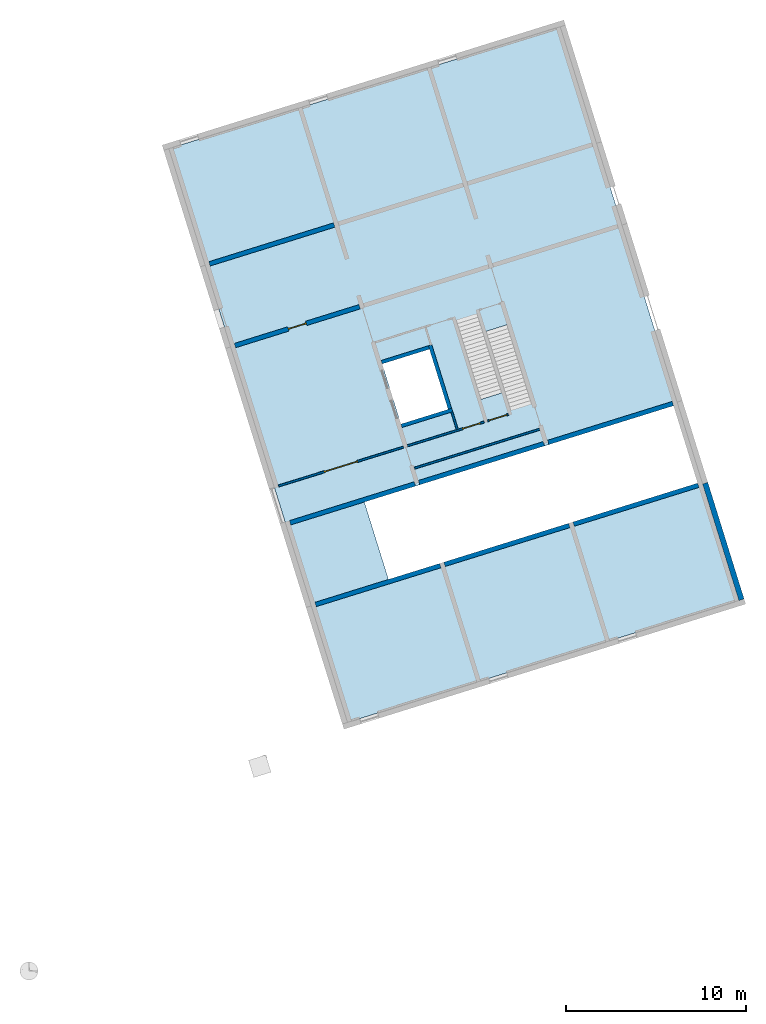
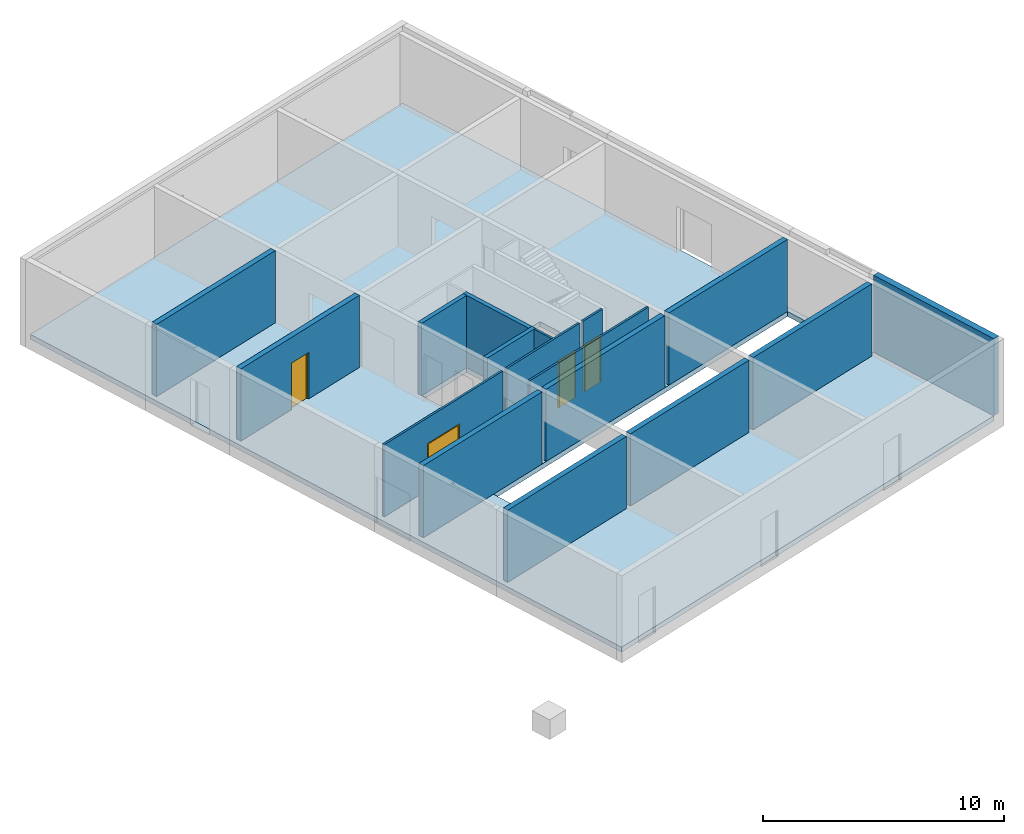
# One storey, part 1 of 6: 17 walls, 4 doors, 1 slab, 9 openings.
"""IFC4 building model written with IfcOpenShell, lengths in metres."""

from ifc_helpers import new_model, entity, si_unit, converted_unit, direction, frame, origin, place, context, subcontext, project, spatial, indexed_curve, outline, extrude, polygons, source, transform, mapped, material, constituent, constituent_set, type_object, type_shapes, element, fill, save


model = new_model("IFC4")

# Units and contexts
model_context = context("Model", 3, precision=1e-05, world=origin(), true_north=direction((6.12323399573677e-17, 1.0)))
body_context = subcontext(model_context, "Body", "Model", "MODEL_VIEW")
ifc_project = project(units=[si_unit("LENGTHUNIT", "METRE"), si_unit("AREAUNIT", "SQUARE_METRE"), si_unit("VOLUMEUNIT", "CUBIC_METRE"), converted_unit("PLANEANGLEUNIT", "DEGREE", entity("IfcPlaneAngleMeasure", 0.0174532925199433), si_unit("PLANEANGLEUNIT", "RADIAN"), dimensions=[0, 0, 0, 0, 0, 0, 0])], contexts=[model_context])

# Site, building, storey
site_placement = place(None, frame((13.1347999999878, 11.9886000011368, 0.0), z_axis=(0.0, 0.0, 1.0), x_axis=(0.954770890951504, 0.297342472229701, 0.0)))
site = spatial("IfcSite", under=ifc_project, at=site_placement, Name="Schiehaven", CompositionType="ELEMENT")
building_placement = place(site_placement, origin())
building = spatial("IfcBuilding", under=site, at=building_placement, Name="VORM huis", CompositionType="ELEMENT")
storey_placement = place(building_placement, origin())
storey = spatial("IfcBuildingStorey", under=building, at=storey_placement, Name="00 begane grond", CompositionType="ELEMENT", Elevation=0.0)

# Slab, openings
ifc_material_1 = material(Name="beton_gewapend_ihw", Category="Miscellaneous")
slab_type = type_object("IfcSlabType", Name="Floor:28_FL_skelet_vloer 250mm", PredefinedType="FLOOR", material=ifc_material_1)
slab_placement = place(storey_placement, origin())
slab = element("IfcSlab", 1, at=slab_placement, inside=storey, type_object=slab_type, material=ifc_material_1, Name="Constructieve vloer", ObjectType="Vloer", PredefinedType="FLOOR", context=body_context, shape_type="SweptSolid", body=[
    extrude(outline(indexed_curve([(-16.675, -11.375), (16.675, -11.375), (16.675, 11.375), (-16.675, 11.375), (-16.675, -11.375)], self_intersect=False), holes=[indexed_curve([(-1.75000000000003, -3.62500000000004), (-1.75000000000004, -0.875000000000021), (1.74999999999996, -0.875000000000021), (1.74999999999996, -3.62500000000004), (-1.75000000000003, -3.62500000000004)], self_intersect=False), indexed_curve([(5.27499999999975, 11.1249999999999), (9.77499999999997, 11.1249999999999), (9.77500000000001, -6.84799999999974), (5.27499999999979, -6.84799999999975), (5.27499999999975, 11.1249999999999)], self_intersect=False), indexed_curve([(-1.76000000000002, 2.22499999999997), (1.75999999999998, 2.22499999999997), (1.75999999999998, 1.02499999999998), (-1.76000000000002, 1.02499999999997), (-1.76000000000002, 2.22499999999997)], self_intersect=False), indexed_curve([(1.75999999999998, 2.42499999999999), (-1.76000000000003, 2.42499999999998), (-1.76000000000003, 3.62499999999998), (1.75999999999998, 3.62499999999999), (1.75999999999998, 2.42499999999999)], self_intersect=False)]), frame((16.2500000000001, 17.05, -0.25), z_axis=(0.0, 0.0, 1.0), x_axis=(0.0, -1.0, 0.0)), (0.0, 0.0, 1.0), 0.25),
])
opening_1_placement = place(slab_placement, origin())
element("IfcOpeningElement", 2, at=opening_1_placement, cuts=slab, Name="Constructieve vloer", PredefinedType="OPENING", context=body_context, shape_type="SweptSolid", body=[
    extrude(outline(indexed_curve([(-1.74999999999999, -1.37500000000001), (1.75, -1.37500000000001), (1.75, 1.37500000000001), (-1.75, 1.37500000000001), (-1.74999999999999, -1.37500000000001)], self_intersect=False)), frame((14.0, 17.05, -0.25), z_axis=(0.0, 0.0, 1.0), x_axis=(0.0, -1.0, 0.0)), (0.0, 0.0, 1.0), 0.25),
])
opening_2_placement = place(slab_placement, origin())
element("IfcOpeningElement", 3, at=opening_2_placement, cuts=slab, Name="Constructieve vloer", PredefinedType="OPENING", context=body_context, shape_type="SweptSolid", body=[
    extrude(outline(indexed_curve([(-8.98649999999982, -2.25000000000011), (8.98649999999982, -2.25000000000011), (8.98649999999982, 2.25000000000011), (-8.98649999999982, 2.25000000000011), (-8.98649999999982, -2.25000000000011)], self_intersect=False)), frame((18.3885000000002, 9.5250000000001, -0.25), z_axis=(0.0, 0.0, 1.0), x_axis=(-1.0, 0.0, 0.0)), (0.0, 0.0, 1.0), 0.25),
])
opening_3_placement = place(slab_placement, origin())
element("IfcOpeningElement", 4, at=opening_3_placement, cuts=slab, Name="Constructieve vloer", PredefinedType="OPENING", context=body_context, shape_type="SweptSolid", body=[
    extrude(outline(indexed_curve([(-0.599999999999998, -1.76), (0.599999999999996, -1.76), (0.599999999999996, 1.76), (-0.599999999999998, 1.76), (-0.599999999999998, -1.76)], self_intersect=False)), frame((17.8750000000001, 17.05, -0.25), z_axis=(0.0, 0.0, 1.0), x_axis=(-1.0, 0.0, 0.0)), (0.0, 0.0, 1.0), 0.25),
])

# Walls
wall_type_1 = type_object("IfcWallType", Name="Basic Wall:28_WA_skelet_wand 250mm_gen", PredefinedType="STANDARD")
wall_1_placement = place(storey_placement, frame((19.875, 11.9, 0.0), z_axis=(0.0, 0.0, 1.0), x_axis=(-1.0, 0.0, 0.0)))
element("IfcWall", 5, at=wall_1_placement, inside=storey, type_object=wall_type_1, material=ifc_material_1, Name="Constructieve wand", ObjectType="Wand", PredefinedType="NOTDEFINED", context=body_context, shape_type="SweptSolid", body=[
    extrude(outline(indexed_curve([(7.24999999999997, 0.125), (-8.26393618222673e-17, 0.125), (8.26393618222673e-17, -0.125), (7.24999999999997, -0.124999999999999), (7.24999999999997, 0.125)], self_intersect=False)), origin(), (0.0, 0.0, 1.0), 3.65),
])
ifc_material_2 = material(Name="ntb_ntb_ntb", Category="Miscellaneous")
wall_type_2 = type_object("IfcWallType", Name="Basic Wall: 300mm_gen", PredefinedType="STANDARD")
wall_2_placement = place(storey_placement, frame((27.7750000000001, 7.15000000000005, 0.0), z_axis=(0.0, 0.0, 1.0), x_axis=(0.0, -1.0, 0.0)))
element("IfcWall", 6, at=wall_2_placement, inside=storey, type_object=wall_type_2, material=ifc_material_2, Name="Gevelwand", ObjectType="Wand", PredefinedType="NOTDEFINED", context=body_context, shape_type="SweptSolid", body=[
    extrude(outline(indexed_curve([(6.77500000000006, 0.15), (-2.81467268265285e-16, 0.150000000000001), (2.81467268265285e-16, -0.150000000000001), (6.77500000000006, -0.150000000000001), (6.77500000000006, 0.15)], self_intersect=False)), origin(), (0.0, 0.0, 1.0), 3.9),
])
ifc_material_3 = material(Name="beton_gewapend_prefab-element", Category="Miscellaneous")
wall_type_3 = type_object("IfcWallType", Name="Basic Wall:28_WA_skelet_wand 200mm_gen", PredefinedType="STANDARD")
wall_3_placement = place(storey_placement, frame((12.6250000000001, 15.2, 0.0)))
element("IfcWall", 7, at=wall_3_placement, inside=storey, type_object=wall_type_3, material=ifc_material_3, Name="Constructieve wand", ObjectType="Wand", PredefinedType="NOTDEFINED", context=body_context, shape_type="SweptSolid", body=[
    extrude(outline(indexed_curve([(2.95, 0.100000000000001), (-3.51397851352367e-16, 0.100000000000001), (3.51397851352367e-16, -0.100000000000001), (2.95, -0.100000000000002), (2.95, 0.100000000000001)], self_intersect=False)), origin(), (0.0, 0.0, 1.0), 3.65),
])
wall_4_placement = place(storey_placement, frame((15.4750000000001, 15.3, 0.0), z_axis=(0.0, 0.0, 1.0), x_axis=(0.0, 1.0, 0.0)))
element("IfcWall", 8, at=wall_4_placement, inside=storey, type_object=wall_type_3, material=ifc_material_3, Name="Constructieve wand", ObjectType="Wand", PredefinedType="NOTDEFINED", context=body_context, shape_type="SweptSolid", body=[
    extrude(outline(indexed_curve([(3.69999999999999, 0.0999999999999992), (-5.34325442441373e-16, 0.0999999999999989), (5.34325442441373e-16, -0.0999999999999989), (3.69999999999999, -0.0999999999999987), (3.69999999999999, 0.0999999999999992)], self_intersect=False)), origin(), (0.0, 0.0, 1.0), 3.65),
])
wall_5_placement = place(storey_placement, frame((15.3750000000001, 18.9, 0.0), z_axis=(0.0, 0.0, 1.0), x_axis=(-1.0, 0.0, 0.0)))
element("IfcWall", 9, at=wall_5_placement, inside=storey, type_object=wall_type_3, material=ifc_material_3, Name="Constructieve wand", ObjectType="Wand", PredefinedType="NOTDEFINED", context=body_context, shape_type="SweptSolid", body=[
    extrude(outline(indexed_curve([(2.75, 0.100000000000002), (-2.05391259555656e-16, 0.100000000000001), (2.05391259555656e-16, -0.100000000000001), (2.75, -0.0999999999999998), (2.75, 0.100000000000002)], self_intersect=False)), origin(), (0.0, 0.0, 1.0), 3.65),
])

# Wall, opening, door
wall_type_4 = type_object("IfcWallType", Name="Basic Wall:22_WA_afbouw_binnenwand 250mm_gen", PredefinedType="STANDARD")
wall_6_placement = place(storey_placement, frame((12.3750000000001, 22.2, 0.0), z_axis=(0.0, 0.0, 1.0), x_axis=(-1.0, 0.0, 0.0)))
wall_6 = element("IfcWall", 10, at=wall_6_placement, inside=storey, type_object=wall_type_4, material=ifc_material_2, Name="Binnenwand", ObjectType="Wand", PredefinedType="NOTDEFINED", context=body_context, shape_type="Tessellation", body=[
    polygons([(2.38977573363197e-16, -0.124999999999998, 0.0), (3.09999999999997, -0.124999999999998, 0.0), (3.09999999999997, -0.124999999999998, 2.34999999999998), (4.14999999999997, -0.124999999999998, 2.34999999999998), (4.14999999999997, -0.124999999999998, 0.0), (7.24999999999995, -0.124999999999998, 0.0), (7.24999999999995, -0.124999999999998, 3.65), (2.38977573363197e-16, -0.124999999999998, 3.65), (3.09999999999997, 0.125000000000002, 2.34999999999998), (3.09999999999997, 0.125000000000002, 0.0), (-8.06549310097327e-16, 0.125000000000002, 0.0), (-8.06549310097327e-16, 0.125000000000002, 3.65), (7.24999999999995, 0.125000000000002, 3.65), (7.24999999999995, 0.125000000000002, 0.0), (4.14999999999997, 0.125000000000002, 0.0), (4.14999999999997, 0.125000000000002, 2.34999999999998)], [[[1, 2, 3, 4, 5, 6, 7, 8]], [[9, 10, 11, 12, 13, 14, 15, 16]], [[11, 10, 2, 1]], [[7, 6, 14, 13]], [[8, 7, 13, 12]], [[1, 8, 12, 11]], [[5, 4, 16, 15]], [[3, 2, 10, 9]], [[4, 3, 9, 16]], [[15, 14, 6, 5]]], closed=True),
])
opening_4_placement = place(wall_6_placement, frame((3.09999999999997, -0.125000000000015, 0.0)))
opening_4 = element("IfcOpeningElement", 11, at=opening_4_placement, cuts=wall_6, Name="Vluchtdeur", PredefinedType="OPENING", context=body_context, shape_type="SweptSolid", body=[
    extrude(outline(indexed_curve([(2.34999999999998, 1.05), (0.0, 1.05), (0.0, -1.78316254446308e-29), (2.34999999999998, -1.78316254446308e-29), (2.34999999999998, 1.05)], self_intersect=False)), frame((0.0, 0.0, 0.0), z_axis=(0.0, 1.0, 0.0), x_axis=(0.0, 0.0, 1.0)), (0.0, 0.0, 1.0), 0.25),
])
ifc_material_4 = material(Name="PD_a_binnenwandopeningen", Category="Miscellaneous")
ifc_constituent_1 = constituent(ifc_material_4, Name="PD_a_binnenwandopeningen", Category="Miscellaneous")
ifc_material_5 = material(Name="metaal_aluminium_ntb", Category="Miscellaneous")
ifc_constituent_2 = constituent(ifc_material_5, Name="metaal_aluminium_ntb", Category="Miscellaneous")
ifc_constituent_set_1 = constituent_set(constituents=[ifc_constituent_1, ifc_constituent_2])
ifc_constituent_3 = constituent(ifc_material_4, Name="PD_a_binnenwandopeningen", Category="Miscellaneous")
ifc_constituent_4 = constituent(ifc_material_5, Name="Panel", Category="Miscellaneous")
ifc_constituent_set_2 = constituent_set(constituents=[ifc_constituent_3, ifc_constituent_4])
door_type_1 = type_object("IfcDoorType", Name="32_DO_binnendeur enkel:binnendeur zelfsluitend 30min", OperationType="NOTDEFINED", PredefinedType="DOOR", material=ifc_constituent_set_2)
shared_shape_1 = source(origin(), body_context, "Body", "SweptSolid", [
    extrude(outline(indexed_curve([(-1.16249999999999, -0.525000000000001), (1.18749999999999, -0.525), (1.18749999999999, 0.525000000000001), (-1.16249999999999, 0.525000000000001), (-1.16249999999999, 0.475), (1.13749999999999, 0.475), (1.13749999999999, -0.475), (-1.16249999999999, -0.475), (-1.16249999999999, -0.525000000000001)], self_intersect=False)), frame((0.525000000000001, 0.0749999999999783, 1.16249999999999), z_axis=(0.0, 1.0, 0.0), x_axis=(0.0, 0.0, 1.0)), (0.0, 0.0, 1.0), 0.1),
    extrude(outline(indexed_curve([(-0.025, -0.475), (0.025, -0.475), (0.025, 0.475), (-0.025, 0.475), (-0.025, -0.475)], self_intersect=False)), frame((0.525000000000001, 0.12499999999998, 0.0), z_axis=(0.0, 0.0, 1.0), x_axis=(0.0, 1.0, 0.0)), (0.0, 0.0, 1.0), 2.29999999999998),
])
type_shapes(door_type_1, [shared_shape_1])
door_1_placement = place(opening_4_placement, origin())
door_1 = element("IfcDoor", 12, at=door_1_placement, inside=storey, type_object=door_type_1, material=ifc_constituent_set_1, Name="Vluchtdeur", ObjectType="Deur", OperationType="NOTDEFINED", OverallHeight=2.34999999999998, OverallWidth=1.05, PredefinedType="DOOR", context=body_context, shape_type="MappedRepresentation", body=[
    mapped(shared_shape_1, transform((0.0, 0.0, 0.0), scale=1.0)),
])
fill(opening_4, door_1)

# Walls
wall_7_placement = place(storey_placement, frame((20.125, 11.9, 0.0)))
element("IfcWall", 13, at=wall_7_placement, inside=storey, type_object=wall_type_4, material=ifc_material_2, Name="Binnenwand", ObjectType="Wand", PredefinedType="NOTDEFINED", context=body_context, shape_type="SweptSolid", body=[
    extrude(outline(indexed_curve([(7.24999999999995, 0.125), (-1.92055213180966e-16, 0.125), (1.92055213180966e-16, -0.125), (7.24999999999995, -0.124999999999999), (7.24999999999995, 0.125)], self_intersect=False)), origin(), (0.0, 0.0, 1.0), 3.65),
])
wall_8_placement = place(storey_placement, frame((12.3750000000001, 11.9, 0.0), z_axis=(0.0, 0.0, 1.0), x_axis=(-1.0, 0.0, 0.0)))
element("IfcWall", 14, at=wall_8_placement, inside=storey, type_object=wall_type_4, material=ifc_material_2, Name="Binnenwand", ObjectType="Wand", PredefinedType="NOTDEFINED", context=body_context, shape_type="SweptSolid", body=[
    extrude(outline(indexed_curve([(7.24999999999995, 0.125), (-1.96773443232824e-16, 0.125), (1.96773443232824e-16, -0.125), (7.24999999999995, -0.124999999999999), (7.24999999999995, 0.125)], self_intersect=False)), origin(), (0.0, 0.0, 1.0), 3.65),
])
for number, where in (
    (15, (20.125, 7.15000000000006, 0.0)),
    (16, (12.625, 7.15000000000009, 0.0)),
    (17, (5.12500000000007, 7.15000000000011, 0.0)),
):
    element("IfcWall", number, at=place(storey_placement, frame(where)), inside=storey, type_object=wall_type_4, material=ifc_material_2, Name="Binnenwand", ObjectType="Wand", PredefinedType="NOTDEFINED", context=body_context, shape_type="SweptSolid", body=[
        extrude(outline(indexed_curve([(7.24999999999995, 0.124999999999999), (-1.92055213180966e-16, 0.125), (1.92055213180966e-16, -0.125), (7.24999999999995, -0.125000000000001), (7.24999999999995, 0.124999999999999)], self_intersect=False)), origin(), (0.0, 0.0, 1.0), 3.65),
    ])
wall_9_placement = place(storey_placement, frame((5.12500000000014, 26.95, 0.0)))
element("IfcWall", 18, at=wall_9_placement, inside=storey, type_object=wall_type_4, material=ifc_material_2, Name="Binnenwand", ObjectType="Wand", PredefinedType="NOTDEFINED", context=body_context, shape_type="SweptSolid", body=[
    extrude(outline(indexed_curve([(7.24999999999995, 0.124999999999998), (4.69673759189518e-16, 0.125000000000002), (-4.69673759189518e-16, -0.125000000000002), (7.24999999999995, -0.125000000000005), (7.24999999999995, 0.124999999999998)], self_intersect=False)), origin(), (0.0, 0.0, 1.0), 3.65),
])

# Wall, openings, door
wall_type_5 = type_object("IfcWallType", Name="Basic Wall:22_WA_afbouw_binnenwand 100mm_gen", PredefinedType="STANDARD")
wall_10_placement = place(storey_placement, frame((18.4750000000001, 14.04, 0.0), z_axis=(0.0, 0.0, 1.0), x_axis=(-1.0, 0.0, 0.0)))
wall_10 = element("IfcWall", 19, at=wall_10_placement, inside=storey, type_object=wall_type_5, material=ifc_material_2, Name="Binnenwand", ObjectType="Wand", PredefinedType="NOTDEFINED", context=body_context, shape_type="Tessellation", body=[
    polygons([(1.25501523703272e-15, -0.0499999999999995, 0.0), (0.0750000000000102, -0.0499999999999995, 0.0), (0.0750000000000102, -0.0499999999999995, 2.34999999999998), (1.12500000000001, -0.0499999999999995, 2.34999999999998), (1.12500000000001, -0.0499999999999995, 0.0), (1.2, -0.0499999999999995, 0.0), (1.2, -0.0499999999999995, 3.65), (1.25501523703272e-15, -0.0499999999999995, 3.65), (0.0750000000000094, 0.0499999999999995, 2.34999999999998), (0.0750000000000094, 0.0499999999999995, 0.0), (4.77572169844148e-16, 0.0499999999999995, 0.0), (4.77572169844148e-16, 0.0499999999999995, 3.65), (1.2, 0.0499999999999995, 3.65), (1.2, 0.0499999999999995, 0.0), (1.12500000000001, 0.0499999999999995, 0.0), (1.12500000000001, 0.0499999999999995, 2.34999999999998)], [[[1, 2, 3, 4, 5, 6, 7, 8]], [[9, 10, 11, 12, 13, 14, 15, 16]], [[11, 10, 2, 1]], [[7, 6, 14, 13]], [[8, 7, 13, 12]], [[1, 8, 12, 11]], [[5, 4, 16, 15]], [[3, 2, 10, 9]], [[4, 3, 9, 16]], [[15, 14, 6, 5]]], closed=True),
])
opening_5_placement = place(wall_10_placement, frame((0.0750000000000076, -0.05, 0.0)))
opening_5 = element("IfcOpeningElement", 20, at=opening_5_placement, cuts=wall_10, Name="Vluchtdeur", PredefinedType="OPENING", context=body_context, shape_type="SweptSolid", body=[
    extrude(outline(indexed_curve([(2.34999999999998, 1.05), (0.0, 1.05), (0.0, 1.35358391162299e-15), (2.34999999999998, 1.35358391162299e-15), (2.34999999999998, 1.05)], self_intersect=False)), frame((0.0, 0.0, 0.0), z_axis=(0.0, 1.0, 0.0), x_axis=(0.0, 0.0, 1.0)), (0.0, 0.0, 1.0), 0.1),
])
opening_6_placement = place(wall_10_placement, frame((18.4750000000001, 14.04, 0.0), z_axis=(0.0, 0.0, 1.0), x_axis=(-1.0, 0.0, 0.0)))
element("IfcOpeningElement", 21, at=opening_6_placement, cuts=wall_10, Name="Vluchtdeur", PredefinedType="OPENING", context=body_context, shape_type="SweptSolid", body=[
    extrude(outline(indexed_curve([(-1.17499999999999, -0.525000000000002), (1.17499999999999, -0.525), (1.17499999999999, 0.525), (-1.17499999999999, 0.525), (-1.17499999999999, -0.525000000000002)], self_intersect=False)), frame((17.8750000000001, 15.614, 1.17499999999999), z_axis=(0.0, -1.0, 0.0), x_axis=(0.0, 0.0, -1.0)), (0.0, 0.0, 1.0), 3.048),
])
ifc_constituent_5 = constituent(ifc_material_4, Name="PD_a_binnenwandopeningen", Category="Miscellaneous")
ifc_constituent_6 = constituent(ifc_material_5, Name="metaal_aluminium_ntb", Category="Miscellaneous")
ifc_constituent_set_3 = constituent_set(constituents=[ifc_constituent_5, ifc_constituent_6])
ifc_constituent_7 = constituent(ifc_material_4, Name="PD_a_binnenwandopeningen", Category="Miscellaneous")
ifc_constituent_8 = constituent(ifc_material_5, Name="Panel", Category="Miscellaneous")
ifc_constituent_set_4 = constituent_set(constituents=[ifc_constituent_7, ifc_constituent_8])
door_type_2 = type_object("IfcDoorType", Name="32_DO_binnendeur enkel:binnendeur zelfsluitend 30min", OperationType="NOTDEFINED", PredefinedType="DOOR", material=ifc_constituent_set_4)
shared_shape_2 = source(origin(), body_context, "Body", "SweptSolid", [
    extrude(outline(indexed_curve([(-1.16249999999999, -0.525000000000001), (1.18749999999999, -0.525), (1.18749999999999, 0.525), (-1.16249999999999, 0.525), (-1.16249999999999, 0.475), (1.13749999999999, 0.475), (1.13749999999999, -0.475), (-1.16249999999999, -0.475), (-1.16249999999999, -0.525000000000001)], self_intersect=False)), frame((0.525000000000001, 0.0, 1.16249999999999), z_axis=(0.0, 1.0, 0.0), x_axis=(0.0, 0.0, 1.0)), (0.0, 0.0, 1.0), 0.1),
    extrude(outline(indexed_curve([(-0.025, -0.475), (0.025, -0.475), (0.025, 0.475), (-0.025, 0.475), (-0.025, -0.475)], self_intersect=False)), frame((0.525000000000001, 0.0499999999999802, 0.0), z_axis=(0.0, 0.0, 1.0), x_axis=(0.0, 1.0, 0.0)), (0.0, 0.0, 1.0), 2.29999999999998),
])
type_shapes(door_type_2, [shared_shape_2])
door_2_placement = place(opening_5_placement, origin())
door_2 = element("IfcDoor", 22, at=door_2_placement, inside=storey, type_object=door_type_2, material=ifc_constituent_set_3, Name="Vluchtdeur", ObjectType="Deur", OperationType="NOTDEFINED", OverallHeight=2.34999999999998, OverallWidth=1.05, PredefinedType="DOOR", context=body_context, shape_type="MappedRepresentation", body=[
    mapped(shared_shape_2, transform((0.0, 0.0, 0.0), scale=1.0)),
])
fill(opening_5, door_2)

# Wall, opening, door
wall_11_placement = place(storey_placement, frame((12.3750000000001, 14.0400000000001, 0.0), z_axis=(0.0, 0.0, 1.0), x_axis=(-1.0, 0.0, 0.0)))
wall_11 = element("IfcWall", 23, at=wall_11_placement, inside=storey, type_object=wall_type_5, material=ifc_material_2, Name="Binnenwand", ObjectType="Wand", PredefinedType="NOTDEFINED", context=body_context, shape_type="Tessellation", body=[
    polygons([(4.59999999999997, -0.0499999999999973, 2.34999999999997), (4.59999999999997, -0.0499999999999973, 0.0), (7.24999999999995, -0.0499999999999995, 0.0), (7.24999999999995, -0.0499999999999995, 3.65), (-6.12380031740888e-16, -0.0500000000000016, 3.65), (-6.12380031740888e-16, -0.0500000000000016, 0.0), (2.64999999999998, -0.0499999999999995, 0.0), (2.64999999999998, -0.0499999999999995, 2.34999999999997), (7.24999999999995, 0.0499999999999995, 0.0), (4.59999999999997, 0.0500000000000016, 0.0), (4.59999999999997, 0.0500000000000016, 2.34999999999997), (2.64999999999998, 0.0499999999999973, 2.34999999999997), (2.64999999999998, 0.0499999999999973, 0.0), (-7.61741015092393e-16, 0.0499999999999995, 0.0), (-7.61741015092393e-16, 0.0499999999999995, 3.65), (7.24999999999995, 0.0499999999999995, 3.65)], [[[1, 2, 3, 4, 5, 6, 7, 8]], [[9, 10, 11, 12, 13, 14, 15, 16]], [[7, 6, 14, 13]], [[4, 3, 9, 16]], [[5, 4, 16, 15]], [[6, 5, 15, 14]], [[13, 12, 8, 7]], [[11, 10, 2, 1]], [[12, 11, 1, 8]], [[3, 2, 10, 9]]], closed=True),
])
opening_7_placement = place(wall_11_placement, frame((2.64999999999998, -0.0500000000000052, 0.0)))
opening_7 = element("IfcOpeningElement", 24, at=opening_7_placement, cuts=wall_11, Name="Vluchtdeur", PredefinedType="OPENING", context=body_context, shape_type="SweptSolid", body=[
    extrude(outline(indexed_curve([(2.34999999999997, -2.12281255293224e-30), (2.34999999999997, 1.95), (0.0, 1.95), (0.0, -2.12281255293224e-30), (2.34999999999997, -2.12281255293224e-30)], self_intersect=False)), frame((0.0, 0.0, 0.0), z_axis=(0.0, 1.0, 0.0), x_axis=(0.0, 0.0, 1.0)), (0.0, 0.0, 1.0), 0.1),
])
ifc_constituent_9 = constituent(ifc_material_4, Name="PD_a_binnenwandopeningen", Category="Miscellaneous")
ifc_constituent_10 = constituent(ifc_material_5, Name="metaal_aluminium_ntb", Category="Miscellaneous")
ifc_constituent_set_5 = constituent_set(constituents=[ifc_constituent_9, ifc_constituent_10])
ifc_constituent_11 = constituent(ifc_material_4, Name="PD_a_binnenwandopeningen", Category="Miscellaneous")
ifc_constituent_12 = constituent(ifc_material_5, Name="Panel", Category="Miscellaneous")
ifc_constituent_set_6 = constituent_set(constituents=[ifc_constituent_11, ifc_constituent_12])
door_type_3 = type_object("IfcDoorType", Name="32_DO_binnendeur dubbel:binnendeur zelfsluitend 30min", OperationType="NOTDEFINED", PredefinedType="DOOR", material=ifc_constituent_set_6)
shared_shape_3 = source(origin(), body_context, "Body", "SweptSolid", [
    extrude(outline(indexed_curve([(0.925, -1.16249999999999), (0.975, -1.16249999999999), (0.975, 1.18749999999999), (-0.975, 1.18749999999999), (-0.975, -1.16249999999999), (-0.925, -1.16249999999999), (-0.925, 1.13749999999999), (0.925, 1.13749999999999), (0.925, -1.16249999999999)], self_intersect=False)), frame((0.975000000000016, 0.100000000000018, 1.16249999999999), z_axis=(0.0, -1.0, 0.0), x_axis=(1.0, 0.0, 0.0)), (0.0, 0.0, 1.0), 0.1),
    extrude(outline(indexed_curve([(-0.462499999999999, -0.025), (0.462499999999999, -0.025), (0.462499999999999, 0.025), (-0.462499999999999, 0.025), (-0.462499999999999, -0.025)], self_intersect=False)), frame((0.512500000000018, 0.0499999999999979, 0.0)), (0.0, 0.0, 1.0), 2.29999999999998),
    extrude(outline(indexed_curve([(-0.4625, -0.025), (0.4625, -0.025), (0.4625, 0.025), (-0.4625, 0.025), (-0.4625, -0.025)], self_intersect=False)), frame((1.43750000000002, 0.050000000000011, 0.0)), (0.0, 0.0, 1.0), 2.29999999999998),
])
type_shapes(door_type_3, [shared_shape_3])
door_3_placement = place(opening_7_placement, origin())
door_3 = element("IfcDoor", 25, at=door_3_placement, inside=storey, type_object=door_type_3, material=ifc_constituent_set_5, Name="Vluchtdeur", ObjectType="Deur", OperationType="NOTDEFINED", OverallHeight=2.34999999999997, OverallWidth=1.95, PredefinedType="DOOR", context=body_context, shape_type="MappedRepresentation", body=[
    mapped(shared_shape_3, transform((0.0, 0.0, 0.0), scale=1.0)),
])
fill(opening_7, door_3)

# Walls
wall_12_placement = place(storey_placement, frame((15.5250000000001, 14.09, 0.0), z_axis=(0.0, 0.0, 1.0), x_axis=(0.0, 1.0, 0.0)))
element("IfcWall", 26, at=wall_12_placement, inside=storey, type_object=wall_type_5, material=ifc_material_2, Name="Binnenwand", ObjectType="Wand", PredefinedType="NOTDEFINED", context=body_context, shape_type="SweptSolid", body=[
    extrude(outline(indexed_curve([(1.01, 0.0499999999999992), (-3.06471829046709e-16, 0.0499999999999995), (3.06471829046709e-16, -0.0499999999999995), (1.01, -0.0499999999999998), (1.01, 0.0499999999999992)], self_intersect=False)), origin(), (0.0, 0.0, 1.0), 3.65),
])
wall_13_placement = place(storey_placement, frame((19.875, 12.74, 0.0), z_axis=(0.0, 0.0, 1.0), x_axis=(-1.0, 0.0, 0.0)))
element("IfcWall", 27, at=wall_13_placement, inside=storey, type_object=wall_type_5, material=ifc_material_2, Name="Binnenwand", ObjectType="Wand", PredefinedType="NOTDEFINED", context=body_context, shape_type="SweptSolid", body=[
    extrude(outline(indexed_curve([(7.24999999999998, 0.0499999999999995), (-3.88338556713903e-16, 0.0499999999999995), (3.88338556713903e-16, -0.0499999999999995), (7.24999999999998, -0.0499999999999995), (7.24999999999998, 0.0499999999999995)], self_intersect=False)), origin(), (0.0, 0.0, 1.0), 3.65),
])

# Wall, openings, door
wall_14_placement = place(storey_placement, frame((17.0750000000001, 14.04, 0.0), z_axis=(0.0, 0.0, 1.0), x_axis=(-1.0, 0.0, 0.0)))
wall_14 = element("IfcWall", 28, at=wall_14_placement, inside=storey, type_object=wall_type_5, material=ifc_material_2, Name="Binnenwand", ObjectType="Wand", PredefinedType="NOTDEFINED", context=body_context, shape_type="Tessellation", body=[
    polygons([(1.43084465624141e-15, -0.0499999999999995, 0.0), (0.224999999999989, -0.0499999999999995, 0.0), (0.224999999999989, -0.0499999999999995, 2.34999999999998), (1.27499999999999, -0.0499999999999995, 2.34999999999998), (1.27499999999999, -0.0499999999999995, 0.0), (1.50000000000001, -0.0499999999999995, 0.0), (1.60000000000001, -0.0499999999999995, 0.0), (4.45000000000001, -0.0499999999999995, 0.0), (4.45000000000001, -0.0499999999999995, 3.65), (1.60000000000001, -0.0499999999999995, 3.65), (1.50000000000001, -0.0499999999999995, 3.65), (1.43084465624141e-15, -0.0499999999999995, 3.65), (0.224999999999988, 0.0499999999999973, 2.34999999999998), (0.224999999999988, 0.0499999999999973, 0.0), (6.52153686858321e-16, 0.0499999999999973, 0.0), (6.52153686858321e-16, 0.0499999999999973, 3.65), (4.45000000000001, 0.0499999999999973, 3.65), (4.45000000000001, 0.0499999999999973, 0.0), (1.27499999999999, 0.0500000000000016, 0.0), (1.27499999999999, 0.0500000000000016, 2.34999999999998)], [[[1, 2, 3, 4, 5, 6, 7, 8, 9, 10, 11, 12]], [[13, 14, 15, 16, 17, 18, 19, 20]], [[15, 14, 2, 1]], [[9, 8, 18, 17]], [[12, 11, 10, 9, 17, 16]], [[1, 12, 16, 15]], [[4, 3, 13, 20]], [[3, 2, 14, 13]], [[5, 4, 20, 19]], [[19, 18, 8, 7, 6, 5]]], closed=True),
])
opening_8_placement = place(wall_14_placement, frame((0.224999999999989, -0.05, 0.0)))
opening_8 = element("IfcOpeningElement", 29, at=opening_8_placement, cuts=wall_14, Name="Vluchtdeur", PredefinedType="OPENING", context=body_context, shape_type="SweptSolid", body=[
    extrude(outline(indexed_curve([(2.34999999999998, 1.05), (0.0, 1.05), (0.0, 1.35358391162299e-15), (2.34999999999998, 1.35358391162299e-15), (2.34999999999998, 1.05)], self_intersect=False)), frame((0.0, 0.0, 0.0), z_axis=(0.0, 1.0, 0.0), x_axis=(0.0, 0.0, 1.0)), (0.0, 0.0, 1.0), 0.1),
])
opening_9_placement = place(wall_14_placement, frame((17.0750000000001, 14.04, 0.0), z_axis=(0.0, 0.0, 1.0), x_axis=(-1.0, 0.0, 0.0)))
element("IfcOpeningElement", 30, at=opening_9_placement, cuts=wall_14, Name="Vluchtdeur", PredefinedType="OPENING", context=body_context, shape_type="SweptSolid", body=[
    extrude(outline(indexed_curve([(-1.17499999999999, -0.525000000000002), (1.17499999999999, -0.525), (1.17499999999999, 0.525), (-1.17499999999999, 0.525), (-1.17499999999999, -0.525000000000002)], self_intersect=False)), frame((16.3250000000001, 15.614, 1.17499999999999), z_axis=(0.0, -1.0, 0.0), x_axis=(0.0, 0.0, -1.0)), (0.0, 0.0, 1.0), 3.048),
])
ifc_constituent_13 = constituent(ifc_material_4, Name="PD_a_binnenwandopeningen", Category="Miscellaneous")
ifc_constituent_14 = constituent(ifc_material_5, Name="metaal_aluminium_ntb", Category="Miscellaneous")
ifc_constituent_set_7 = constituent_set(constituents=[ifc_constituent_13, ifc_constituent_14])
door_4_placement = place(opening_8_placement, origin())
door_4 = element("IfcDoor", 31, at=door_4_placement, inside=storey, type_object=door_type_2, material=ifc_constituent_set_7, Name="Vluchtdeur", ObjectType="Deur", OperationType="NOTDEFINED", OverallHeight=2.34999999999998, OverallWidth=1.05, PredefinedType="DOOR", context=body_context, shape_type="MappedRepresentation", body=[
    mapped(shared_shape_2, transform((0.0, 0.0, 0.0), scale=1.0)),
])
fill(opening_8, door_4)

save(model, "model.ifc")
